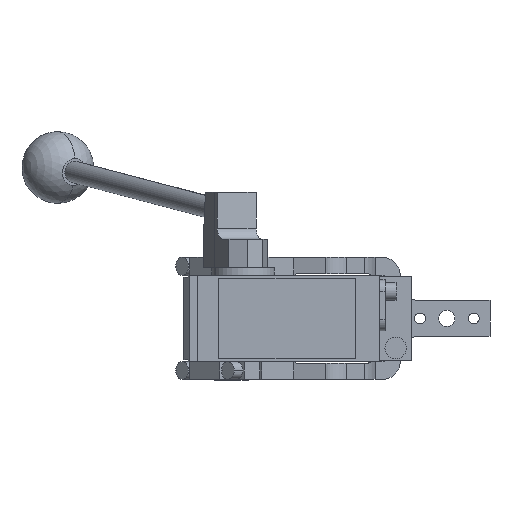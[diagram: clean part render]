
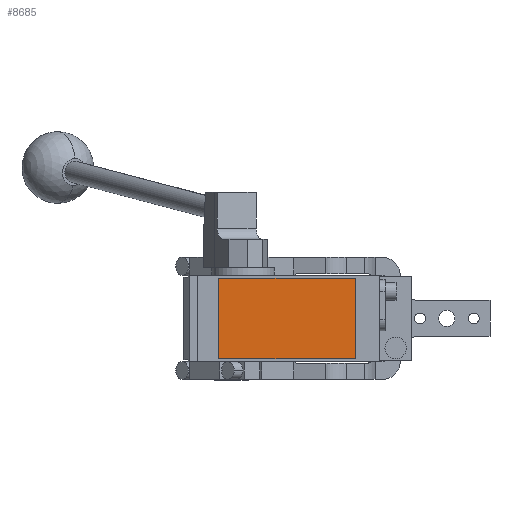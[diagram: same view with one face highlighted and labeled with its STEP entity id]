
A CAD part, front view. The second image highlights one B-rep face of the part: STEP entity #8685.
In plain terms, the highlighted planar face has unit normal (0, -1, 0).
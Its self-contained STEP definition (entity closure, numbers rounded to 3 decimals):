
#267 = CARTESIAN_POINT ( 'NONE',  ( -7., -280.5, -22.5 ) ) ;
#269 = DIRECTION ( 'NONE',  ( 0., -1., 0. ) ) ;
#449 = AXIS2_PLACEMENT_3D ( 'NONE', #9741, #269, #11765 ) ;
#481 = ORIENTED_EDGE ( 'NONE', *, *, #4808, .T. ) ;
#1088 = ORIENTED_EDGE ( 'NONE', *, *, #12561, .T. ) ;
#1415 = CARTESIAN_POINT ( 'NONE',  ( 69., -280.5, 22.5 ) ) ;
#1640 = LINE ( 'NONE', #12949, #9831 ) ;
#1997 = CARTESIAN_POINT ( 'NONE',  ( -7., -280.5, 22.5 ) ) ;
#3705 = CARTESIAN_POINT ( 'NONE',  ( 69., -280.5, -22.5 ) ) ;
#3854 = FACE_OUTER_BOUND ( 'NONE', #5865, .T. ) ;
#3977 = CARTESIAN_POINT ( 'NONE',  ( 69., -280.5, 22.5 ) ) ;
#3980 = DIRECTION ( 'NONE',  ( 1., 0., 0. ) ) ;
#4206 = LINE ( 'NONE', #10033, #13342 ) ;
#4808 = EDGE_CURVE ( 'NONE', #7736, #9571, #1640, .T. ) ;
#5251 = LINE ( 'NONE', #3977, #10192 ) ;
#5345 = DIRECTION ( 'NONE',  ( -1., 0., 0. ) ) ;
#5468 = DIRECTION ( 'NONE',  ( 0., 0., -1. ) ) ;
#5865 = EDGE_LOOP ( 'NONE', ( #12432, #481, #6166, #1088 ) ) ;
#6166 = ORIENTED_EDGE ( 'NONE', *, *, #11729, .T. ) ;
#6347 = VERTEX_POINT ( 'NONE', #1415 ) ;
#7179 = EDGE_CURVE ( 'NONE', #11038, #7736, #11356, .T. ) ;
#7736 = VERTEX_POINT ( 'NONE', #267 ) ;
#8685 = ADVANCED_FACE ( 'NONE', ( #3854 ), #10938, .T. ) ;
#8787 = VECTOR ( 'NONE', #5468, 1000. ) ;
#9571 = VERTEX_POINT ( 'NONE', #3705 ) ;
#9741 = CARTESIAN_POINT ( 'NONE',  ( 0., -280.5, 0. ) ) ;
#9831 = VECTOR ( 'NONE', #3980, 1000. ) ;
#10033 = CARTESIAN_POINT ( 'NONE',  ( -7., -280.5, 22.5 ) ) ;
#10192 = VECTOR ( 'NONE', #13486, 1000. ) ;
#10938 = PLANE ( 'NONE',  #449 ) ;
#11038 = VERTEX_POINT ( 'NONE', #14885 ) ;
#11356 = LINE ( 'NONE', #1997, #8787 ) ;
#11729 = EDGE_CURVE ( 'NONE', #9571, #6347, #5251, .T. ) ;
#11765 = DIRECTION ( 'NONE',  ( 0., 0., -1. ) ) ;
#12432 = ORIENTED_EDGE ( 'NONE', *, *, #7179, .T. ) ;
#12561 = EDGE_CURVE ( 'NONE', #6347, #11038, #4206, .T. ) ;
#12949 = CARTESIAN_POINT ( 'NONE',  ( -7., -280.5, -22.5 ) ) ;
#13342 = VECTOR ( 'NONE', #5345, 1000. ) ;
#13486 = DIRECTION ( 'NONE',  ( 0., 0., 1. ) ) ;
#14885 = CARTESIAN_POINT ( 'NONE',  ( -7., -280.5, 22.5 ) ) ;
